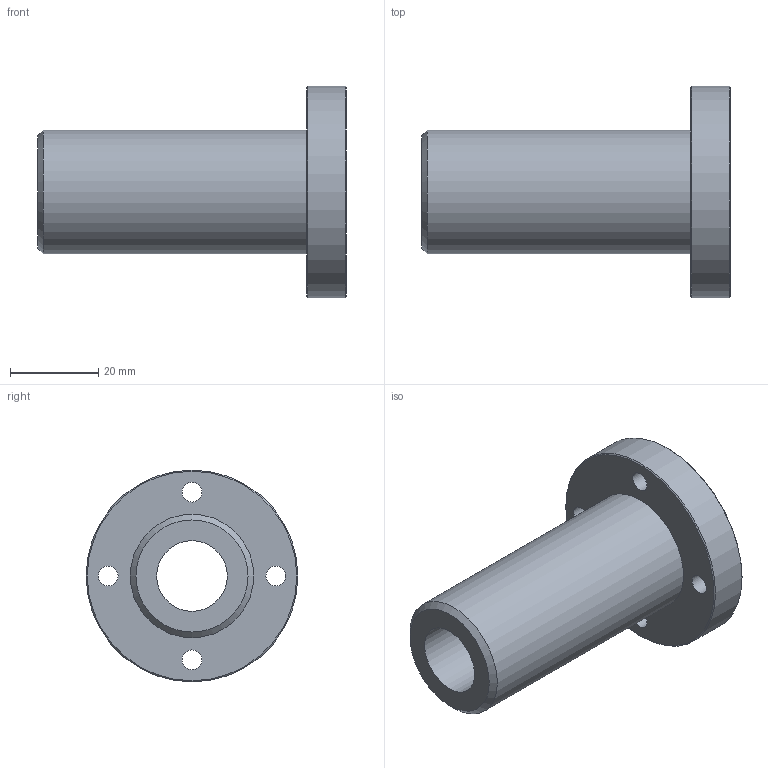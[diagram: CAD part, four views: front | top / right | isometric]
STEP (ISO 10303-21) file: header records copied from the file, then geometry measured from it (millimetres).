
FILE_DESCRIPTION(('STEP AP203'),'1');
FILE_NAME('//192.168.1.1/share/s-4 技術開発/s-4-4_CAD/s-4-4-3_見直し済み/PBC LINEAR修正済み/DFPJ/DFPJ_TOP/DFPJR/DFPJR16.step','2022-03-24T05:42:02',(' '),(' '),'Spatial InterOp 3D',' ',' ');
FILE_SCHEMA(('CONFIG_CONTROL_DESIGN'));
Length unit declared in the file: millimetre
Products named in the file (1): 1
Bounding box: 70 x 48 x 48 mm (x, y, z)
Volume: 38654.6 mm3; surface area: 13880.6 mm2
Topology: 1 solids, 1 shells, 21 faces, 43 edges, 29 vertices
Faces by surface type: cylinder 11, plane 7, cone 3
Full cylindrical faces by diameter (mm): 4.5 x4, 7.5 x4, 16 x1, 28 x1, 48 x1
Entity records: 528 total; most frequent: DIRECTION 94, CARTESIAN_POINT 72, EDGE_LOOP 50, ORIENTED_EDGE 50, AXIS2_PLACEMENT_3D 47, FACE_OUTER_BOUND 32, EDGE_CURVE 25, VERTEX_POINT 25
